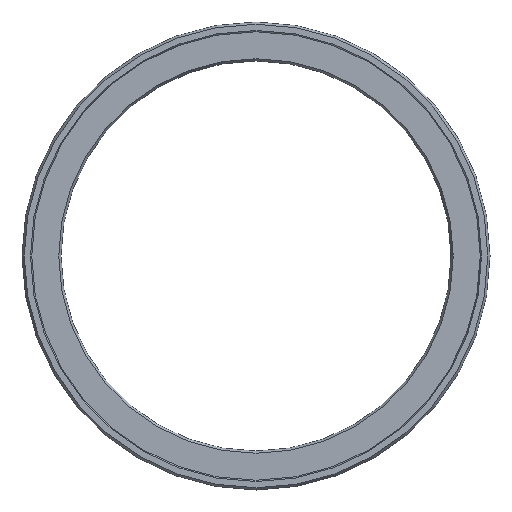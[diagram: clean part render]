
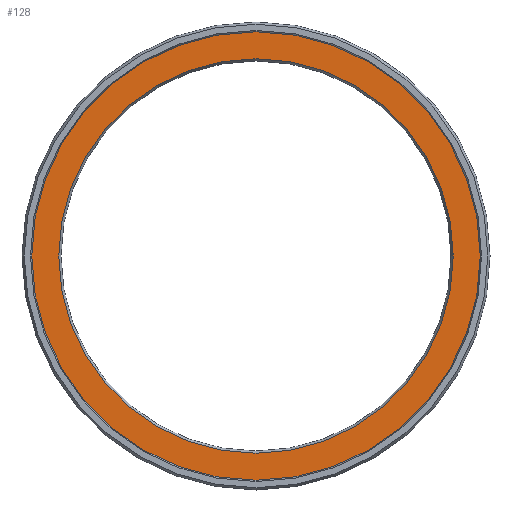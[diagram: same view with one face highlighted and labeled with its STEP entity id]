
A CAD part, left-side view. The second image highlights one B-rep face of the part: STEP entity #128.
In plain terms, the highlighted planar face has unit normal (-1, 0, 0).
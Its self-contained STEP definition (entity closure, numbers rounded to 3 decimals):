
#112=PLANE('',#329);
#128=ADVANCED_FACE('',(#163,#164),#112,.T.);
#163=FACE_BOUND('',#199,.T.);
#164=FACE_BOUND('',#200,.T.);
#199=EDGE_LOOP('',(#235));
#200=EDGE_LOOP('',(#236));
#235=ORIENTED_EDGE('',*,*,#276,.T.);
#236=ORIENTED_EDGE('',*,*,#275,.F.);
#257=VERTEX_POINT('',#454);
#258=VERTEX_POINT('',#457);
#275=EDGE_CURVE('',#257,#257,#293,.T.);
#276=EDGE_CURVE('',#258,#258,#294,.T.);
#293=CIRCLE('',#326,57.5);
#294=CIRCLE('',#328,50.577);
#326=AXIS2_PLACEMENT_3D('',#453,#394,#395);
#328=AXIS2_PLACEMENT_3D('',#456,#398,#399);
#329=AXIS2_PLACEMENT_3D('',#458,#400,#401);
#394=DIRECTION('',(1.,0.,0.));
#395=DIRECTION('',(0.,0.,-1.));
#398=DIRECTION('',(1.,0.,0.));
#399=DIRECTION('',(0.,0.,1.));
#400=DIRECTION('',(-1.,0.,0.));
#401=DIRECTION('',(0.,0.,1.));
#453=CARTESIAN_POINT('',(0.,0.,0.));
#454=CARTESIAN_POINT('',(0.,0.,-57.5));
#456=CARTESIAN_POINT('',(0.,0.,0.));
#457=CARTESIAN_POINT('',(0.,0.,50.577));
#458=CARTESIAN_POINT('',(0.,57.5,0.));
